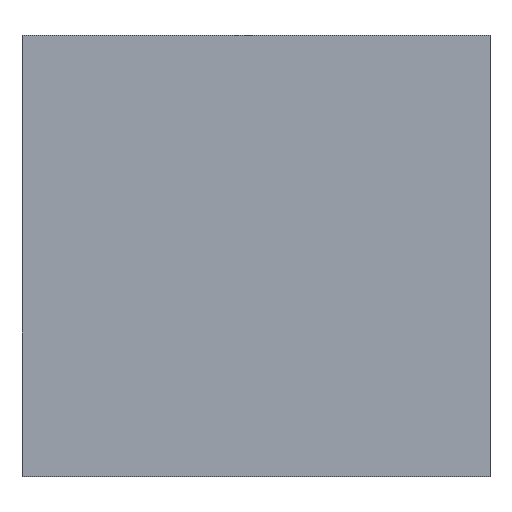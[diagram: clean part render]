
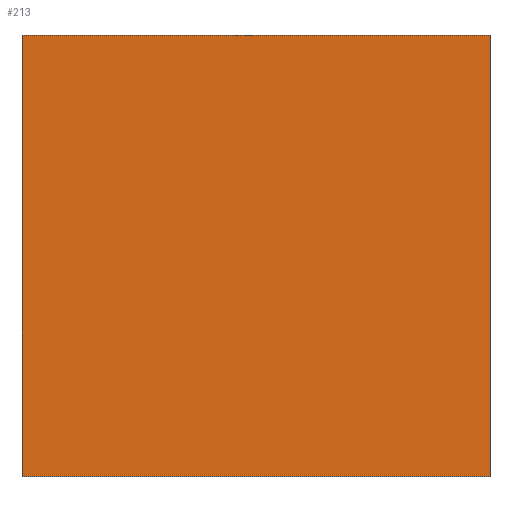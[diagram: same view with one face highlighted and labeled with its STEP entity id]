
A CAD part, top view. The second image highlights one B-rep face of the part: STEP entity #213.
In plain terms, the highlighted planar face has unit normal (0, 0, 1).
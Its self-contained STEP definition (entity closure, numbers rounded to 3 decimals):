
#24 = VERTEX_POINT('',#25);
#25 = CARTESIAN_POINT('',(-4.3,-1.5,6.6));
#32 = PLANE('',#33);
#33 = AXIS2_PLACEMENT_3D('',#34,#35,#36);
#34 = CARTESIAN_POINT('',(-4.3,-1.5,0.));
#35 = DIRECTION('',(1.,0.,-0.));
#36 = DIRECTION('',(0.,0.,1.));
#44 = PLANE('',#45);
#45 = AXIS2_PLACEMENT_3D('',#46,#47,#48);
#46 = CARTESIAN_POINT('',(-4.3,-1.5,0.));
#47 = DIRECTION('',(-0.,1.,0.));
#48 = DIRECTION('',(0.,0.,1.));
#85 = VERTEX_POINT('',#86);
#86 = CARTESIAN_POINT('',(-4.3,13.2,6.6));
#100 = PLANE('',#101);
#101 = AXIS2_PLACEMENT_3D('',#102,#103,#104);
#102 = CARTESIAN_POINT('',(-4.3,13.2,0.));
#103 = DIRECTION('',(-0.,1.,0.));
#104 = DIRECTION('',(0.,0.,1.));
#112 = EDGE_CURVE('',#24,#85,#113,.T.);
#113 = SURFACE_CURVE('',#114,(#118,#125),.PCURVE_S1.);
#114 = LINE('',#115,#116);
#115 = CARTESIAN_POINT('',(-4.3,-1.5,6.6));
#116 = VECTOR('',#117,1.);
#117 = DIRECTION('',(-0.,1.,0.));
#118 = PCURVE('',#32,#119);
#119 = DEFINITIONAL_REPRESENTATION('',(#120),#124);
#120 = LINE('',#121,#122);
#121 = CARTESIAN_POINT('',(6.6,0.));
#122 = VECTOR('',#123,1.);
#123 = DIRECTION('',(0.,-1.));
#124 = ( GEOMETRIC_REPRESENTATION_CONTEXT(2) 
PARAMETRIC_REPRESENTATION_CONTEXT() REPRESENTATION_CONTEXT('2D SPACE',''
  ) );
#125 = PCURVE('',#126,#131);
#126 = PLANE('',#127);
#127 = AXIS2_PLACEMENT_3D('',#128,#129,#130);
#128 = CARTESIAN_POINT('',(-4.3,-1.5,6.6));
#129 = DIRECTION('',(0.,0.,1.));
#130 = DIRECTION('',(1.,0.,-0.));
#131 = DEFINITIONAL_REPRESENTATION('',(#132),#136);
#132 = LINE('',#133,#134);
#133 = CARTESIAN_POINT('',(0.,0.));
#134 = VECTOR('',#135,1.);
#135 = DIRECTION('',(0.,1.));
#136 = ( GEOMETRIC_REPRESENTATION_CONTEXT(2) 
PARAMETRIC_REPRESENTATION_CONTEXT() REPRESENTATION_CONTEXT('2D SPACE',''
  ) );
#165 = EDGE_CURVE('',#24,#166,#168,.T.);
#166 = VERTEX_POINT('',#167);
#167 = CARTESIAN_POINT('',(11.3,-1.5,6.6));
#168 = SURFACE_CURVE('',#169,(#173,#180),.PCURVE_S1.);
#169 = LINE('',#170,#171);
#170 = CARTESIAN_POINT('',(-4.3,-1.5,6.6));
#171 = VECTOR('',#172,1.);
#172 = DIRECTION('',(1.,0.,-0.));
#173 = PCURVE('',#44,#174);
#174 = DEFINITIONAL_REPRESENTATION('',(#175),#179);
#175 = LINE('',#176,#177);
#176 = CARTESIAN_POINT('',(6.6,0.));
#177 = VECTOR('',#178,1.);
#178 = DIRECTION('',(0.,1.));
#179 = ( GEOMETRIC_REPRESENTATION_CONTEXT(2) 
PARAMETRIC_REPRESENTATION_CONTEXT() REPRESENTATION_CONTEXT('2D SPACE',''
  ) );
#180 = PCURVE('',#126,#181);
#181 = DEFINITIONAL_REPRESENTATION('',(#182),#186);
#182 = LINE('',#183,#184);
#183 = CARTESIAN_POINT('',(0.,0.));
#184 = VECTOR('',#185,1.);
#185 = DIRECTION('',(1.,0.));
#186 = ( GEOMETRIC_REPRESENTATION_CONTEXT(2) 
PARAMETRIC_REPRESENTATION_CONTEXT() REPRESENTATION_CONTEXT('2D SPACE',''
  ) );
#202 = PLANE('',#203);
#203 = AXIS2_PLACEMENT_3D('',#204,#205,#206);
#204 = CARTESIAN_POINT('',(11.3,-1.5,0.));
#205 = DIRECTION('',(1.,0.,-0.));
#206 = DIRECTION('',(0.,0.,1.));
#213 = ADVANCED_FACE('',(#214),#126,.T.);
#214 = FACE_BOUND('',#215,.T.);
#215 = EDGE_LOOP('',(#216,#217,#218,#241));
#216 = ORIENTED_EDGE('',*,*,#112,.F.);
#217 = ORIENTED_EDGE('',*,*,#165,.T.);
#218 = ORIENTED_EDGE('',*,*,#219,.T.);
#219 = EDGE_CURVE('',#166,#220,#222,.T.);
#220 = VERTEX_POINT('',#221);
#221 = CARTESIAN_POINT('',(11.3,13.2,6.6));
#222 = SURFACE_CURVE('',#223,(#227,#234),.PCURVE_S1.);
#223 = LINE('',#224,#225);
#224 = CARTESIAN_POINT('',(11.3,-1.5,6.6));
#225 = VECTOR('',#226,1.);
#226 = DIRECTION('',(-0.,1.,0.));
#227 = PCURVE('',#126,#228);
#228 = DEFINITIONAL_REPRESENTATION('',(#229),#233);
#229 = LINE('',#230,#231);
#230 = CARTESIAN_POINT('',(15.6,0.));
#231 = VECTOR('',#232,1.);
#232 = DIRECTION('',(0.,1.));
#233 = ( GEOMETRIC_REPRESENTATION_CONTEXT(2) 
PARAMETRIC_REPRESENTATION_CONTEXT() REPRESENTATION_CONTEXT('2D SPACE',''
  ) );
#234 = PCURVE('',#202,#235);
#235 = DEFINITIONAL_REPRESENTATION('',(#236),#240);
#236 = LINE('',#237,#238);
#237 = CARTESIAN_POINT('',(6.6,0.));
#238 = VECTOR('',#239,1.);
#239 = DIRECTION('',(0.,-1.));
#240 = ( GEOMETRIC_REPRESENTATION_CONTEXT(2) 
PARAMETRIC_REPRESENTATION_CONTEXT() REPRESENTATION_CONTEXT('2D SPACE',''
  ) );
#241 = ORIENTED_EDGE('',*,*,#242,.F.);
#242 = EDGE_CURVE('',#85,#220,#243,.T.);
#243 = SURFACE_CURVE('',#244,(#248,#255),.PCURVE_S1.);
#244 = LINE('',#245,#246);
#245 = CARTESIAN_POINT('',(-4.3,13.2,6.6));
#246 = VECTOR('',#247,1.);
#247 = DIRECTION('',(1.,0.,-0.));
#248 = PCURVE('',#126,#249);
#249 = DEFINITIONAL_REPRESENTATION('',(#250),#254);
#250 = LINE('',#251,#252);
#251 = CARTESIAN_POINT('',(0.,14.7));
#252 = VECTOR('',#253,1.);
#253 = DIRECTION('',(1.,0.));
#254 = ( GEOMETRIC_REPRESENTATION_CONTEXT(2) 
PARAMETRIC_REPRESENTATION_CONTEXT() REPRESENTATION_CONTEXT('2D SPACE',''
  ) );
#255 = PCURVE('',#100,#256);
#256 = DEFINITIONAL_REPRESENTATION('',(#257),#261);
#257 = LINE('',#258,#259);
#258 = CARTESIAN_POINT('',(6.6,0.));
#259 = VECTOR('',#260,1.);
#260 = DIRECTION('',(0.,1.));
#261 = ( GEOMETRIC_REPRESENTATION_CONTEXT(2) 
PARAMETRIC_REPRESENTATION_CONTEXT() REPRESENTATION_CONTEXT('2D SPACE',''
  ) );
